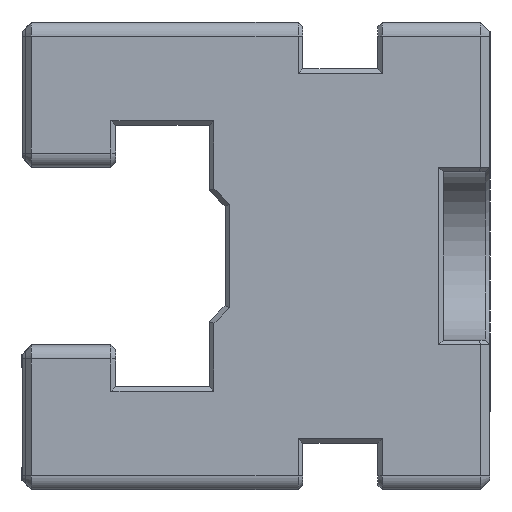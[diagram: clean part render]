
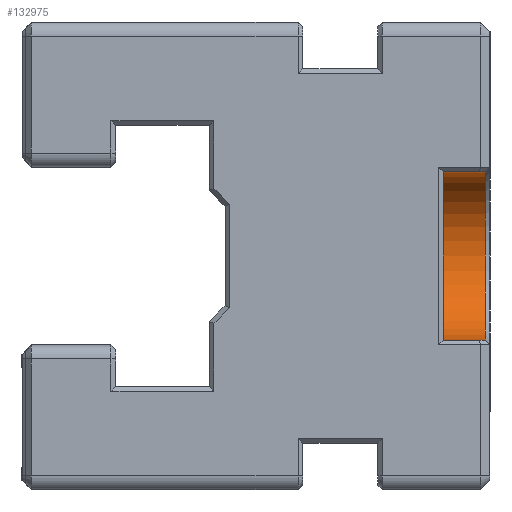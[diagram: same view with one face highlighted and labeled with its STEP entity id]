
A CAD part, left-side view. The second image highlights one B-rep face of the part: STEP entity #132975.
In plain terms, the highlighted cylindrical face has radius 9 mm (diameter 18 mm), a partial arc.
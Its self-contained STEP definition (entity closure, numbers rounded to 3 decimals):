
#795 = CIRCLE ( 'NONE', #37828, 9. ) ;
#12498 = CIRCLE ( 'NONE', #86476, 9. ) ;
#12656 = ORIENTED_EDGE ( 'NONE', *, *, #32215, .T. ) ;
#16379 = CARTESIAN_POINT ( 'NONE',  ( -274.75, -45., 0. ) ) ;
#25457 = CYLINDRICAL_SURFACE ( 'NONE', #78330, 9. ) ;
#28016 = EDGE_CURVE ( 'NONE', #58449, #76276, #795, .T. ) ;
#32215 = EDGE_CURVE ( 'NONE', #58449, #132296, #98788, .T. ) ;
#33545 = DIRECTION ( 'NONE',  ( 0., -1., 0. ) ) ;
#36536 = DIRECTION ( 'NONE',  ( 0., -1., 0. ) ) ;
#37828 = AXIS2_PLACEMENT_3D ( 'NONE', #16379, #95386, #62805 ) ;
#41245 = VECTOR ( 'NONE', #33545, 1000. ) ;
#45332 = EDGE_LOOP ( 'NONE', ( #12656, #137920, #90768, #85207 ) ) ;
#58449 = VERTEX_POINT ( 'NONE', #167750 ) ;
#62805 = DIRECTION ( 'NONE',  ( 0., 0., -1. ) ) ;
#71375 = DIRECTION ( 'NONE',  ( 0., 0., 1. ) ) ;
#74853 = CARTESIAN_POINT ( 'NONE',  ( -274.75, -45., 9. ) ) ;
#76276 = VERTEX_POINT ( 'NONE', #74853 ) ;
#78330 = AXIS2_PLACEMENT_3D ( 'NONE', #93794, #190677, #158002 ) ;
#85207 = ORIENTED_EDGE ( 'NONE', *, *, #28016, .F. ) ;
#86476 = AXIS2_PLACEMENT_3D ( 'NONE', #168214, #102934, #71375 ) ;
#90768 = ORIENTED_EDGE ( 'NONE', *, *, #206761, .F. ) ;
#93794 = CARTESIAN_POINT ( 'NONE',  ( -274.75, -45., 0. ) ) ;
#95386 = DIRECTION ( 'NONE',  ( 0., -1., 0. ) ) ;
#98788 = LINE ( 'NONE', #130293, #41245 ) ;
#100715 = VERTEX_POINT ( 'NONE', #195150 ) ;
#102934 = DIRECTION ( 'NONE',  ( 0., -1., 0. ) ) ;
#106402 = CARTESIAN_POINT ( 'NONE',  ( -274.75, -49.5, -9. ) ) ;
#108520 = FACE_OUTER_BOUND ( 'NONE', #45332, .T. ) ;
#110691 = VECTOR ( 'NONE', #36536, 1000. ) ;
#130293 = CARTESIAN_POINT ( 'NONE',  ( -274.75, -45., -9. ) ) ;
#132296 = VERTEX_POINT ( 'NONE', #106402 ) ;
#132975 = ADVANCED_FACE ( 'NONE', ( #108520 ), #25457, .F. ) ;
#137920 = ORIENTED_EDGE ( 'NONE', *, *, #183538, .T. ) ;
#158002 = DIRECTION ( 'NONE',  ( 0., 0., -1. ) ) ;
#165978 = CARTESIAN_POINT ( 'NONE',  ( -274.75, -45., 9. ) ) ;
#167750 = CARTESIAN_POINT ( 'NONE',  ( -274.75, -45., -9. ) ) ;
#168214 = CARTESIAN_POINT ( 'NONE',  ( -274.75, -49.5, 0. ) ) ;
#183538 = EDGE_CURVE ( 'NONE', #132296, #100715, #12498, .T. ) ;
#190677 = DIRECTION ( 'NONE',  ( 0., -1., 0. ) ) ;
#195150 = CARTESIAN_POINT ( 'NONE',  ( -274.75, -49.5, 9. ) ) ;
#196567 = LINE ( 'NONE', #165978, #110691 ) ;
#206761 = EDGE_CURVE ( 'NONE', #76276, #100715, #196567, .T. ) ;
